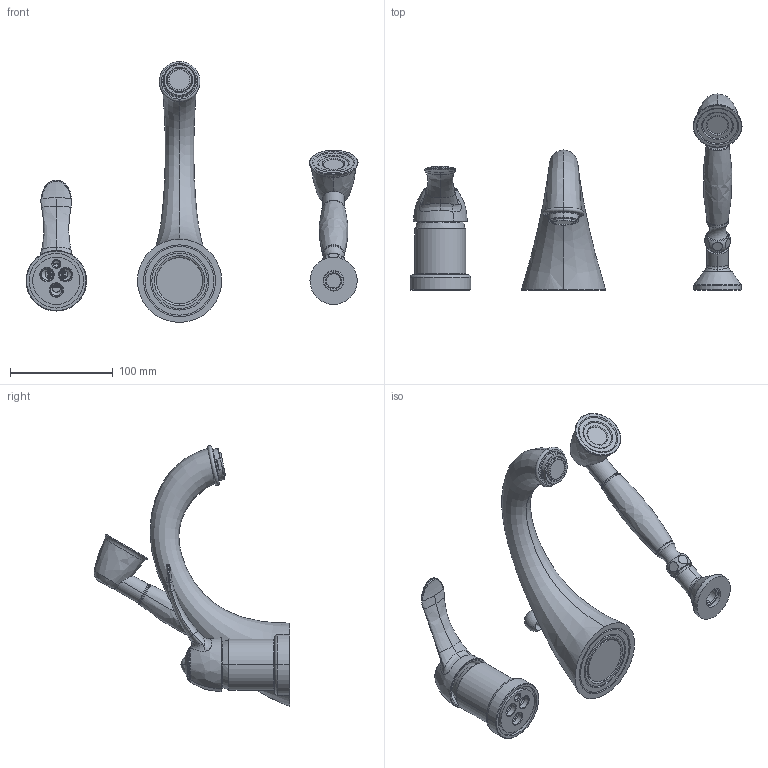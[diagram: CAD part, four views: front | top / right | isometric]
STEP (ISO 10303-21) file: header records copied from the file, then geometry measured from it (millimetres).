
FILE_DESCRIPTION((''),'2;1');
FILE_NAME('F3314_FILE_3D','2013-08-07T',('ivanv'),(''),'PRO/ENGINEER BY PARAMETRIC TECHNOLOGY CORPORATION, 2012130','PRO/ENGINEER BY PARAMETRIC TECHNOLOGY CORPORATION, 2012130','');
FILE_SCHEMA(('CONFIG_CONTROL_DESIGN'));
Length unit declared in the file: millimetre
Products named in the file (1): F3314_FILE_3D
Bounding box: 323.25 x 190.74 x 253.89 mm (x, y, z)
Volume: 423160 mm3; surface area: 166846.6 mm2
Topology: 5 solids, 7 shells, 465 faces, 1032 edges, 620 vertices
Faces by surface type: cylinder 146, plane 114, bspline 68, cone 68, torus 54, sphere 15
Entity records: 23876 total; most frequent: CARTESIAN_POINT 13721, DIRECTION 2185, ORIENTED_EDGE 2044, EDGE_CURVE 1022, AXIS2_PLACEMENT_3D 935, VERTEX_POINT 620, CIRCLE 537, EDGE_LOOP 528
